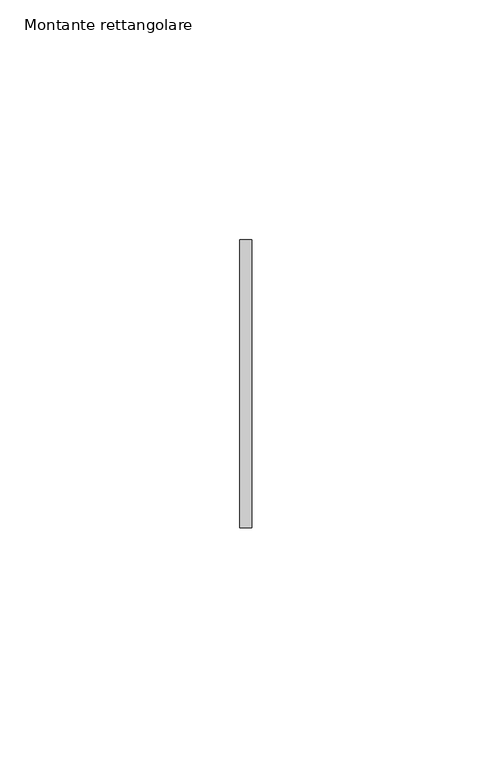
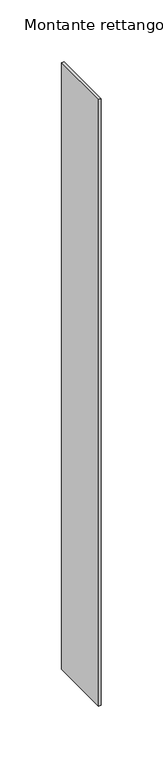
"""IFC4 building model written with IfcOpenShell, lengths in millimetres: member geometry, Montante rettangolare : Verde Profilo's Coverage."""

from ifc_helpers import new_model, si_unit, frame, origin, place, context, project, spatial, polyline, outline, extrude, source, transform, mapped, element, save


def montante_rettangolare_093b8246(model_context):
    return source(origin(), model_context, "Body", "SweptSolid", [
        extrude(outline(polyline([(-2.4801246, -60.0), (-2.4801246, 0.0), (0.0, 0.0), (0.0, -60.0), (-2.4801246, -60.0)])), frame((0.0, 0.0, -600.0), z_axis=(0.0, 0.0, 1.0), x_axis=(1.0, 0.0, 0.0)), (0.0, 0.0, 1.0), 600.0),
    ])


if __name__ == "__main__":
    model = new_model("IFC4")
    model_context = context("Model", 3, world=origin())
    ifc_project = project(units=[si_unit("LENGTHUNIT", "METRE", prefix="MILLI")], contexts=[model_context])
    site = spatial("IfcSite", under=ifc_project)
    building = spatial("IfcBuilding", under=site)
    placement = place(None, origin())
    montante_rettangolare_shape = montante_rettangolare_093b8246(model_context)
    element("IfcMember", 1, ObjectType="Montante rettangolare : Verde Profilo's Coverage", at=placement, inside=building, context=model_context, shape_type="MappedRepresentation", body=[
        mapped(montante_rettangolare_shape, transform((0.0, 0.0, 0.0), x_axis=(1.0, 0.0, 0.0), y_axis=(0.0, 1.0, 0.0), z_axis=(0.0, 0.0, 1.0))),
    ])
    save(model, "model.ifc")
